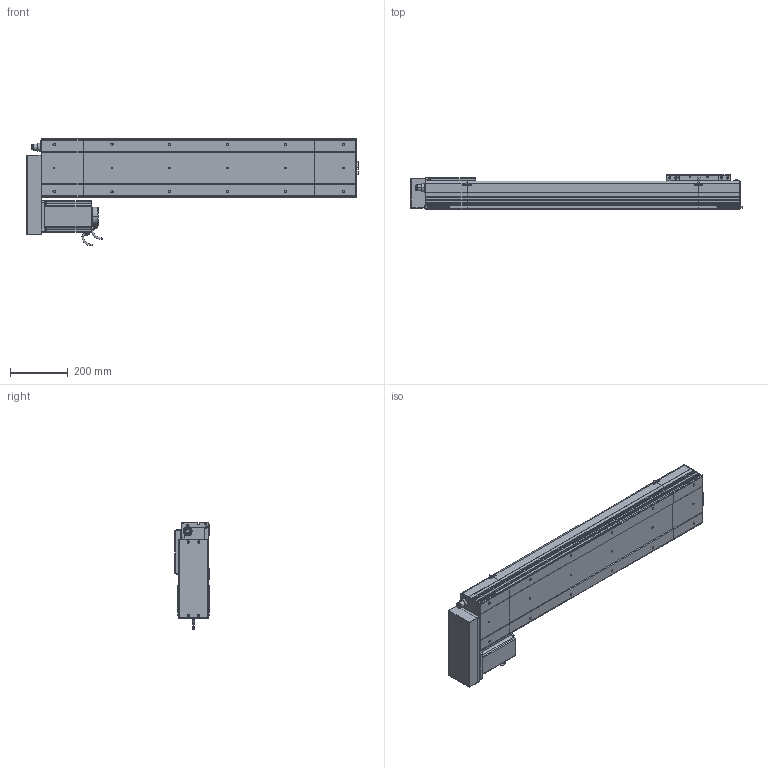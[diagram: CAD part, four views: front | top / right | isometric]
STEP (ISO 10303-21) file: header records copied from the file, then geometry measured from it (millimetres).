
FILE_DESCRIPTION (( 'STEP AP214' ), '1' );
FILE_NAME ('D20 CSH BR S800.STEP', '2010-06-30T08:10:30', ( 'Conseil Régional Haute-Normandie' ), ( 'Conseil Régional Haute-Normandie' ), 'SwSTEP 2.0', 'SolidWorks 2010', '' );
FILE_SCHEMA (( 'AUTOMOTIVE_DESIGN' ));
Length unit declared in the file: millimetre
Products named in the file (31): Cache Moteur BR D20_Default; ecrou_Default; vis M5 L15_Default; vis M5 L47_Default; vis M5 L30_Default; clavette; corps 110BLDC170A-630x; Conecteur_Default; Conecteur2_Default; codeur 110BLDC170A-630x; Corp Tail D20_Default; Tail D20_Default; D20 CSH BR S800; Plaque De Serrage D20_Default; Plaque de Bout Tail D20_Default; Couvercle_Default; Couvercle S800_Default; Corp S800_Default; Corp D20 S800_Default; Chariot D20_Default; Support Chariot D20_Default; Plaque de Bout Head BR D20_Default; Head D20 BR_Default; Glissiere_Default; Couvercle Head BR_Default; Corp Head BR D20_Default; Support moteur BR D20_Default; avant 110BLDC170A-630x; Moteur motionking 110BLDC170A-640x; Plaque De Serrage Head BR D20_Default
Assembly tree (60 placements, depth 4):
  D20 CSH BR S800
    Head D20 BR_Default
      vis M5 L15_Default  x8
      vis M5 L30_Default  x4
      ecrou_Default  x4
      vis M5 L47_Default  x4
      Couvercle Head BR_Default
      Cache Moteur BR D20_Default
      Plaque De Serrage Head BR D20_Default
      Plaque de Bout Head BR D20_Default
      Corp Head BR D20_Default
      Support moteur BR D20_Default
      Moteur motionking 110BLDC170A-640x
        Conecteur2_Default
        avant 110BLDC170A-630x
        Conecteur_Default
        corps 110BLDC170A-630x
        codeur 110BLDC170A-630x
        clavette
    Tail D20_Default
      Plaque de Bout Tail D20_Default
      vis M5 L15_Default  x6
      Plaque De Serrage D20_Default
      Corp Tail D20_Default
      Couvercle_Default
    Corp D20 S800_Default
      Corp S800_Default
      Couvercle S800_Default
    Chariot D20_Default
      vis M5 L15_Default  x8
      Glissiere_Default
      Support Chariot D20_Default
      Chariot D20_Default
Bounding box: 1147.7 x 120 x 372 mm (x, y, z)
Volume: 9913490.1 mm3; surface area: 1890977.9 mm2
Topology: 97 solids, 97 shells, 3556 faces, 8933 edges, 5817 vertices
Faces by surface type: plane 2003, bspline 806, cylinder 601, torus 83, cone 63
Entity records: 156521 total; most frequent: CARTESIAN_POINT 81810, ORIENTED_EDGE 14814, DIRECTION 11055, EDGE_CURVE 7407, VERTEX_POINT 4905, LINE 4859, VECTOR 4859, EDGE_LOOP 3156
